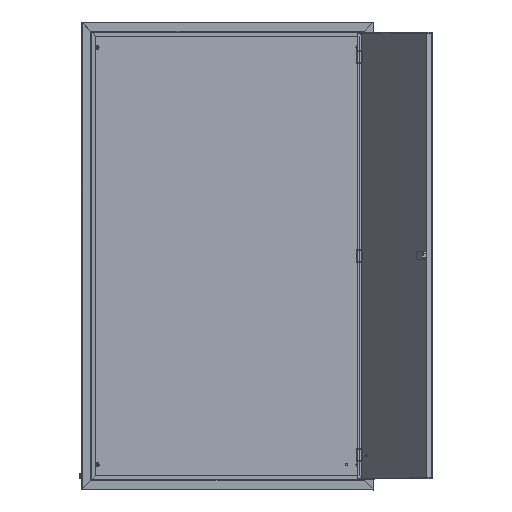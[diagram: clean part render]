
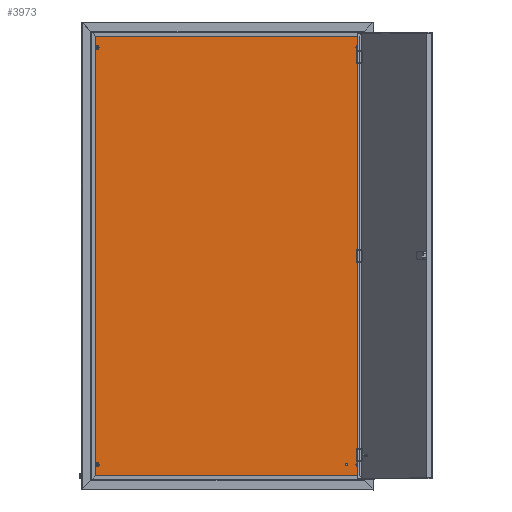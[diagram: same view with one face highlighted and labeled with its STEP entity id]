
A CAD part, top view. The second image highlights one B-rep face of the part: STEP entity #3973.
In plain terms, the highlighted planar face has unit normal (0, 0, 1).
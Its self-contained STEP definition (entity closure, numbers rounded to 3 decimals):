
#212 = EDGE_CURVE ( 'NONE', #11407, #5170, #12293, .T. ) ;
#407 = AXIS2_PLACEMENT_3D ( 'NONE', #10725, #6981, #15541 ) ;
#1115 = CARTESIAN_POINT ( 'NONE',  ( 6., 1100., 0. ) ) ;
#1141 = DIRECTION ( 'NONE',  ( 1., 0., 0. ) ) ;
#1341 = CARTESIAN_POINT ( 'NONE',  ( 1.937, 1128.063, 0. ) ) ;
#1382 = CARTESIAN_POINT ( 'NONE',  ( 14., 1100., 0. ) ) ;
#1423 = CARTESIAN_POINT ( 'NONE',  ( 688.063, 1128.063, 0. ) ) ;
#1488 = CARTESIAN_POINT ( 'NONE',  ( 680., 30., 0. ) ) ;
#1551 = CARTESIAN_POINT ( 'NONE',  ( 650., 30., 0. ) ) ;
#1808 = AXIS2_PLACEMENT_3D ( 'NONE', #13537, #2358, #15808 ) ;
#2155 = VERTEX_POINT ( 'NONE', #8366 ) ;
#2175 = CARTESIAN_POINT ( 'NONE',  ( 10., 30., 0. ) ) ;
#2207 = ORIENTED_EDGE ( 'NONE', *, *, #12532, .F. ) ;
#2214 = DIRECTION ( 'NONE',  ( 0., -1., 0. ) ) ;
#2269 = ORIENTED_EDGE ( 'NONE', *, *, #13241, .F. ) ;
#2358 = DIRECTION ( 'NONE',  ( 0., 0., 1. ) ) ;
#2381 = ORIENTED_EDGE ( 'NONE', *, *, #7413, .F. ) ;
#2646 = EDGE_LOOP ( 'NONE', ( #4051, #9015 ) ) ;
#2829 = CARTESIAN_POINT ( 'NONE',  ( 10., 30., 0. ) ) ;
#3224 = DIRECTION ( 'NONE',  ( 1., 0., 0. ) ) ;
#3309 = DIRECTION ( 'NONE',  ( -1., 0., 0. ) ) ;
#3359 = DIRECTION ( 'NONE',  ( 0., 0., 1. ) ) ;
#3403 = EDGE_CURVE ( 'NONE', #9405, #15412, #4586, .T. ) ;
#3412 = AXIS2_PLACEMENT_3D ( 'NONE', #9133, #10535, #9240 ) ;
#3539 = CIRCLE ( 'NONE', #14479, 4. ) ;
#3721 = VECTOR ( 'NONE', #7970, 1000. ) ;
#3752 = FACE_BOUND ( 'NONE', #2646, .T. ) ;
#3973 = ADVANCED_FACE ( 'NONE', ( #12308, #3752, #13063, #5829, #11908, #5079 ), #12872, .F. ) ;
#4023 = DIRECTION ( 'NONE',  ( -1., 0., 0. ) ) ;
#4051 = ORIENTED_EDGE ( 'NONE', *, *, #11040, .F. ) ;
#4116 = VERTEX_POINT ( 'NONE', #1382 ) ;
#4181 = DIRECTION ( 'NONE',  ( 0., 0., 1. ) ) ;
#4475 = ORIENTED_EDGE ( 'NONE', *, *, #5394, .T. ) ;
#4490 = CARTESIAN_POINT ( 'NONE',  ( 680., 1100., 0. ) ) ;
#4586 = CIRCLE ( 'NONE', #5424, 3. ) ;
#4763 = CARTESIAN_POINT ( 'NONE',  ( 1.937, 1.937, 0. ) ) ;
#4917 = EDGE_CURVE ( 'NONE', #8489, #6120, #6918, .T. ) ;
#5002 = VERTEX_POINT ( 'NONE', #10494 ) ;
#5079 = FACE_OUTER_BOUND ( 'NONE', #9834, .T. ) ;
#5170 = VERTEX_POINT ( 'NONE', #15112 ) ;
#5258 = VERTEX_POINT ( 'NONE', #8909 ) ;
#5263 = DIRECTION ( 'NONE',  ( 0., 0., 1. ) ) ;
#5271 = VERTEX_POINT ( 'NONE', #12493 ) ;
#5350 = DIRECTION ( 'NONE',  ( 0., 0., 1. ) ) ;
#5394 = EDGE_CURVE ( 'NONE', #6120, #15672, #14383, .T. ) ;
#5424 = AXIS2_PLACEMENT_3D ( 'NONE', #1551, #13630, #4023 ) ;
#5505 = CARTESIAN_POINT ( 'NONE',  ( 653., 30., 0. ) ) ;
#5656 = CIRCLE ( 'NONE', #7121, 4. ) ;
#5670 = ORIENTED_EDGE ( 'NONE', *, *, #13869, .F. ) ;
#5681 = AXIS2_PLACEMENT_3D ( 'NONE', #4490, #5707, #15458 ) ;
#5707 = DIRECTION ( 'NONE',  ( 0., 0., 1. ) ) ;
#5829 = FACE_BOUND ( 'NONE', #11346, .T. ) ;
#6120 = VERTEX_POINT ( 'NONE', #1341 ) ;
#6593 = DIRECTION ( 'NONE',  ( -1., 0., 0. ) ) ;
#6632 = EDGE_CURVE ( 'NONE', #11484, #5002, #14250, .T. ) ;
#6918 = LINE ( 'NONE', #14080, #3721 ) ;
#6981 = DIRECTION ( 'NONE',  ( 0., 0., 1. ) ) ;
#7121 = AXIS2_PLACEMENT_3D ( 'NONE', #2175, #3359, #3309 ) ;
#7261 = VECTOR ( 'NONE', #12001, 1000. ) ;
#7346 = ORIENTED_EDGE ( 'NONE', *, *, #13713, .F. ) ;
#7413 = EDGE_CURVE ( 'NONE', #5258, #5271, #9441, .T. ) ;
#7569 = DIRECTION ( 'NONE',  ( 1., 0., 0. ) ) ;
#7635 = CIRCLE ( 'NONE', #11618, 4. ) ;
#7875 = CARTESIAN_POINT ( 'NONE',  ( 10., 1100., 0. ) ) ;
#7966 = EDGE_CURVE ( 'NONE', #15412, #9405, #11382, .T. ) ;
#7970 = DIRECTION ( 'NONE',  ( -1., 0., 0. ) ) ;
#7984 = DIRECTION ( 'NONE',  ( 1., 0., 0. ) ) ;
#8016 = DIRECTION ( 'NONE',  ( 0., 0., 1. ) ) ;
#8158 = VECTOR ( 'NONE', #1141, 1000. ) ;
#8215 = CIRCLE ( 'NONE', #407, 4. ) ;
#8287 = ORIENTED_EDGE ( 'NONE', *, *, #3403, .F. ) ;
#8366 = CARTESIAN_POINT ( 'NONE',  ( 688.063, 1.937, 0. ) ) ;
#8489 = VERTEX_POINT ( 'NONE', #1423 ) ;
#8909 = CARTESIAN_POINT ( 'NONE',  ( 676., 1100., 0. ) ) ;
#9008 = CARTESIAN_POINT ( 'NONE',  ( 684., 30., 0. ) ) ;
#9015 = ORIENTED_EDGE ( 'NONE', *, *, #212, .F. ) ;
#9133 = CARTESIAN_POINT ( 'NONE',  ( 0., 0., 0. ) ) ;
#9152 = EDGE_CURVE ( 'NONE', #15672, #2155, #11797, .T. ) ;
#9163 = DIRECTION ( 'NONE',  ( 0., 0., 1. ) ) ;
#9240 = DIRECTION ( 'NONE',  ( -1., 0., 0. ) ) ;
#9405 = VERTEX_POINT ( 'NONE', #5505 ) ;
#9441 = CIRCLE ( 'NONE', #5681, 4. ) ;
#9606 = CARTESIAN_POINT ( 'NONE',  ( 1.937, 1128.093, 0. ) ) ;
#9834 = EDGE_LOOP ( 'NONE', ( #4475, #14773, #14588, #13228 ) ) ;
#9955 = CIRCLE ( 'NONE', #10893, 4. ) ;
#10494 = CARTESIAN_POINT ( 'NONE',  ( 676., 30., 0. ) ) ;
#10535 = DIRECTION ( 'NONE',  ( 0., 0., -1. ) ) ;
#10537 = LINE ( 'NONE', #15483, #7261 ) ;
#10654 = AXIS2_PLACEMENT_3D ( 'NONE', #2829, #4181, #13857 ) ;
#10725 = CARTESIAN_POINT ( 'NONE',  ( 10., 1100., 0. ) ) ;
#10786 = EDGE_LOOP ( 'NONE', ( #2269, #5670 ) ) ;
#10893 = AXIS2_PLACEMENT_3D ( 'NONE', #12638, #5350, #6593 ) ;
#11040 = EDGE_CURVE ( 'NONE', #5170, #11407, #5656, .T. ) ;
#11346 = EDGE_LOOP ( 'NONE', ( #7346, #2381 ) ) ;
#11382 = CIRCLE ( 'NONE', #1808, 3. ) ;
#11407 = VERTEX_POINT ( 'NONE', #12343 ) ;
#11484 = VERTEX_POINT ( 'NONE', #9008 ) ;
#11618 = AXIS2_PLACEMENT_3D ( 'NONE', #7875, #9163, #7984 ) ;
#11797 = LINE ( 'NONE', #13327, #8158 ) ;
#11908 = FACE_BOUND ( 'NONE', #10786, .T. ) ;
#11918 = CARTESIAN_POINT ( 'NONE',  ( 680., 30., 0. ) ) ;
#12001 = DIRECTION ( 'NONE',  ( 0., 1., 0. ) ) ;
#12042 = EDGE_LOOP ( 'NONE', ( #15210, #2207 ) ) ;
#12279 = ORIENTED_EDGE ( 'NONE', *, *, #7966, .F. ) ;
#12293 = CIRCLE ( 'NONE', #10654, 4. ) ;
#12308 = FACE_BOUND ( 'NONE', #14535, .T. ) ;
#12343 = CARTESIAN_POINT ( 'NONE',  ( 6., 30., 0. ) ) ;
#12493 = CARTESIAN_POINT ( 'NONE',  ( 684., 1100., 0. ) ) ;
#12532 = EDGE_CURVE ( 'NONE', #5002, #11484, #3539, .T. ) ;
#12638 = CARTESIAN_POINT ( 'NONE',  ( 680., 1100., 0. ) ) ;
#12872 = PLANE ( 'NONE',  #3412 ) ;
#13063 = FACE_BOUND ( 'NONE', #12042, .T. ) ;
#13228 = ORIENTED_EDGE ( 'NONE', *, *, #4917, .T. ) ;
#13241 = EDGE_CURVE ( 'NONE', #4116, #14716, #8215, .T. ) ;
#13269 = EDGE_CURVE ( 'NONE', #2155, #8489, #10537, .T. ) ;
#13327 = CARTESIAN_POINT ( 'NONE',  ( 1.907, 1.937, 0. ) ) ;
#13537 = CARTESIAN_POINT ( 'NONE',  ( 650., 30., 0. ) ) ;
#13630 = DIRECTION ( 'NONE',  ( 0., 0., 1. ) ) ;
#13713 = EDGE_CURVE ( 'NONE', #5271, #5258, #9955, .T. ) ;
#13857 = DIRECTION ( 'NONE',  ( -1., 0., 0. ) ) ;
#13869 = EDGE_CURVE ( 'NONE', #14716, #4116, #7635, .T. ) ;
#13877 = CARTESIAN_POINT ( 'NONE',  ( 647., 30., 0. ) ) ;
#14080 = CARTESIAN_POINT ( 'NONE',  ( 688.093, 1128.063, 0. ) ) ;
#14250 = CIRCLE ( 'NONE', #15381, 4. ) ;
#14383 = LINE ( 'NONE', #9606, #15341 ) ;
#14479 = AXIS2_PLACEMENT_3D ( 'NONE', #11918, #8016, #3224 ) ;
#14535 = EDGE_LOOP ( 'NONE', ( #12279, #8287 ) ) ;
#14588 = ORIENTED_EDGE ( 'NONE', *, *, #13269, .T. ) ;
#14716 = VERTEX_POINT ( 'NONE', #1115 ) ;
#14773 = ORIENTED_EDGE ( 'NONE', *, *, #9152, .T. ) ;
#15112 = CARTESIAN_POINT ( 'NONE',  ( 14., 30., 0. ) ) ;
#15210 = ORIENTED_EDGE ( 'NONE', *, *, #6632, .F. ) ;
#15341 = VECTOR ( 'NONE', #2214, 1000. ) ;
#15381 = AXIS2_PLACEMENT_3D ( 'NONE', #1488, #5263, #7569 ) ;
#15412 = VERTEX_POINT ( 'NONE', #13877 ) ;
#15458 = DIRECTION ( 'NONE',  ( -1., 0., 0. ) ) ;
#15483 = CARTESIAN_POINT ( 'NONE',  ( 688.063, 1.907, 0. ) ) ;
#15541 = DIRECTION ( 'NONE',  ( 1., 0., 0. ) ) ;
#15672 = VERTEX_POINT ( 'NONE', #4763 ) ;
#15808 = DIRECTION ( 'NONE',  ( -1., 0., 0. ) ) ;
